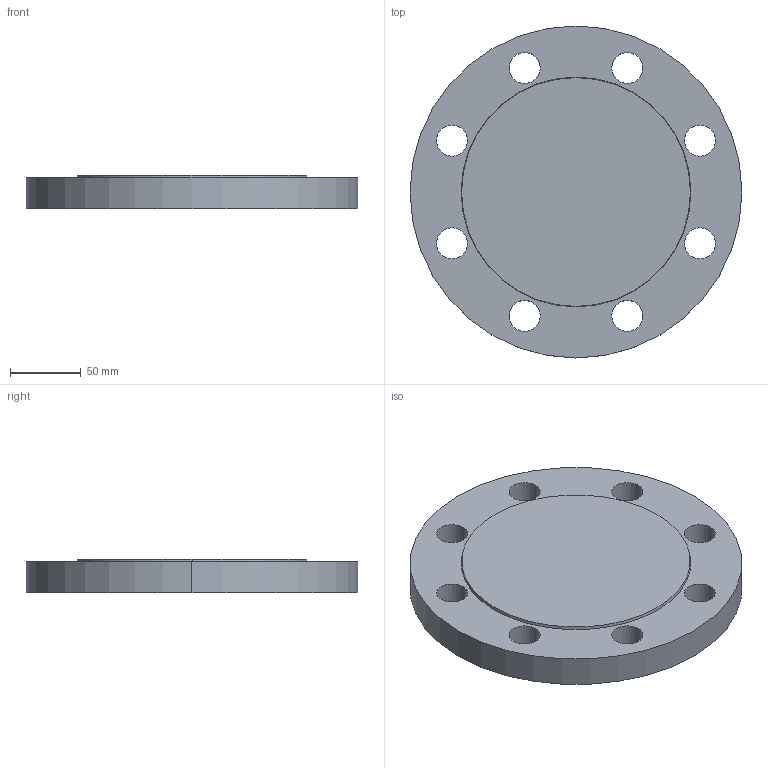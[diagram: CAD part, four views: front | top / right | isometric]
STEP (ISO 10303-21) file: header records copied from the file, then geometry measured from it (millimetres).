
FILE_DESCRIPTION (( 'STEP AP214' ), '1' );
FILE_NAME ('PN40 DN100 Type 05 - Type B Face.STEP', '2019-01-02T00:26:09', ( '' ), ( '' ), 'SwSTEP 2.0', 'SolidWorks 2019', '' );
FILE_SCHEMA (( 'AUTOMOTIVE_DESIGN' ));
Length unit declared in the file: millimetre
Products named in the file (1): PN40 DN100 Type 05 - Type B Face
Bounding box: 235 x 235 x 24 mm (x, y, z)
Volume: 928719.9 mm3; surface area: 109927.3 mm2
Topology: 1 solids, 1 shells, 23 faces, 60 edges, 40 vertices
Faces by surface type: cylinder 18, plane 3, cone 2
Entity records: 800 total; most frequent: DIRECTION 148, CARTESIAN_POINT 124, ORIENTED_EDGE 120, AXIS2_PLACEMENT_3D 64, EDGE_CURVE 60, CIRCLE 40, VERTEX_POINT 40, EDGE_LOOP 40
